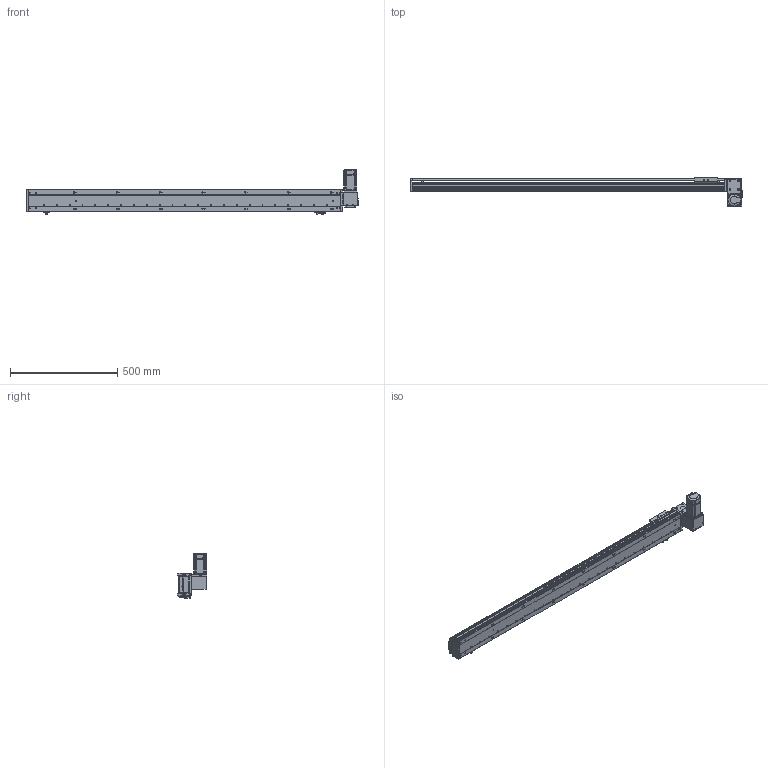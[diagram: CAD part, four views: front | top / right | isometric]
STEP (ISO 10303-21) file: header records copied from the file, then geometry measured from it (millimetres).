
FILE_DESCRIPTION (( 'STEP AP203' ), '1' );
FILE_NAME ('RY100-T-300-DR.SLDASM_1250.step', '2024-04-25T03:23:18', ( '盈信电脑' ), ( '东莞市道滘镇水果街19号' ), 'SwSTEP 2.0', 'SolidWorks 2016', '' );
FILE_SCHEMA (( 'CONFIG_CONTROL_DESIGN' ));
Length unit declared in the file: millimetre
Products named in the file (16): RY80-T肮祭謫狟殏俋欶; RY100俋离覜茼え; RY100-T左右折电机安装板; RY100-T-300-DR.SLDASM_1250; RY100-T-300-RK倰第奻裔_1250; RY100-T翋肮祭謫裔啣2; RY100綴裔啣; 侂狟200W萇儂; RY100-T-300-RK倰第菁釱_1250; RY100-T肮祭謫臏賑輸; 滅袉蝶18-10; 1; RY100-T翋肮祭謫裔啣; RY100-T肮祭謫翋盓傅釱; RY100-T粣創揤踡裔; 覜茼ん672
Assembly tree (19 placements, depth 3):
  RY100-T-300-DR.SLDASM_1250
    RY100-T-300-RK倰第菁釱_1250
    RY100-T-300-RK倰第奻裔_1250
    RY100-T肮祭謫臏賑輸
    RY100綴裔啣
    覜茼ん672  x3
    RY100俋离覜茼え
    RY100-T肮祭謫翋盓傅釱
    RY100-T左右折电机安装板
    侂狟200W萇儂
      1
    RY100-T粣創揤踡裔
    滅袉蝶18-10  x2
    RY100-T翋肮祭謫裔啣2  x2
    RY100-T翋肮祭謫裔啣
    RY80-T肮祭謫狟殏俋欶
Bounding box: 1550 x 135.5 x 209.7 mm (x, y, z)
Volume: 3043019.4 mm3; surface area: 1270255.4 mm2
Topology: 18 solids, 18 shells, 2227 faces, 6187 edges, 4019 vertices
Faces by surface type: plane 1213, cylinder 805, cone 131, bspline 78
Entity records: 71220 total; most frequent: CARTESIAN_POINT 17062, ORIENTED_EDGE 11110, DIRECTION 10603, EDGE_CURVE 5555, VERTEX_POINT 3655, VECTOR 3597, LINE 3597, AXIS2_PLACEMENT_3D 3503
